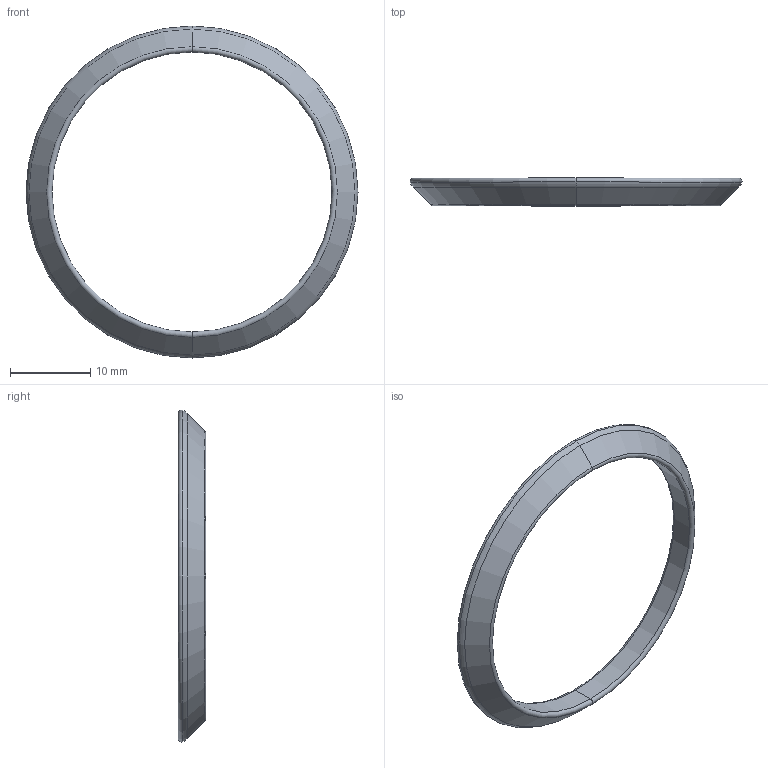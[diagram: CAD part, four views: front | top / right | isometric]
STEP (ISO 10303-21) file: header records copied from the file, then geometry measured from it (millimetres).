
FILE_DESCRIPTION (( 'STEP AP203' ), '1' );
FILE_NAME ('RETAINER_INSERT.STEP', '2024-03-01T15:31:50', ( '' ), ( '' ), 'SwSTEP 2.0', 'SolidWorks 2020', '' );
FILE_SCHEMA (( 'CONFIG_CONTROL_DESIGN' ));
Length unit declared in the file: inch
Products named in the file (1): RETAINER_INSERT
Bounding box: 41.41 x 3.43 x 41.41 mm (x, y, z)
Volume: 863.6 mm3; surface area: 1319.1 mm2
Topology: 1 solids, 1 shells, 13 faces, 26 edges, 14 vertices
Faces by surface type: torus 8, cone 2, cylinder 2, plane 1
Entity records: 425 total; most frequent: DIRECTION 76, CARTESIAN_POINT 54, ORIENTED_EDGE 52, AXIS2_PLACEMENT_3D 36, EDGE_CURVE 26, CIRCLE 22, EDGE_LOOP 14, VERTEX_POINT 14
